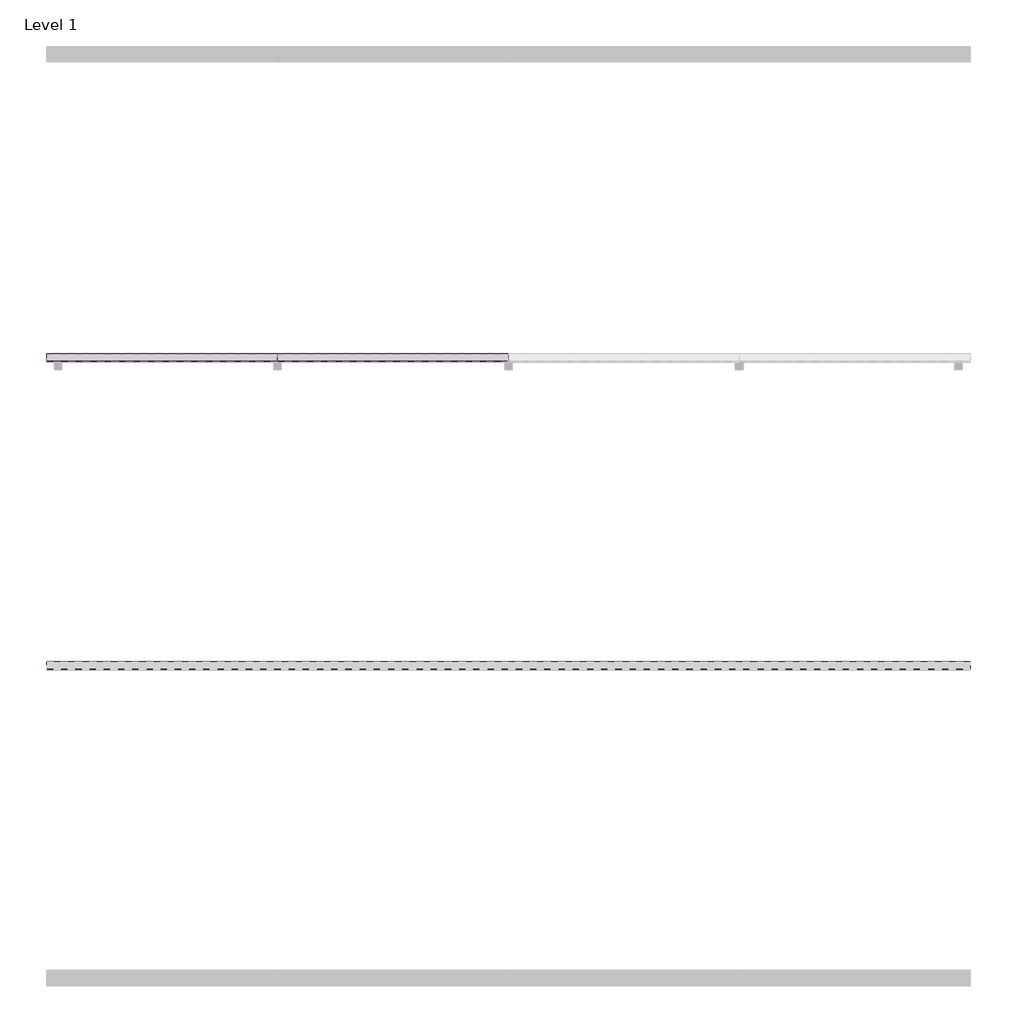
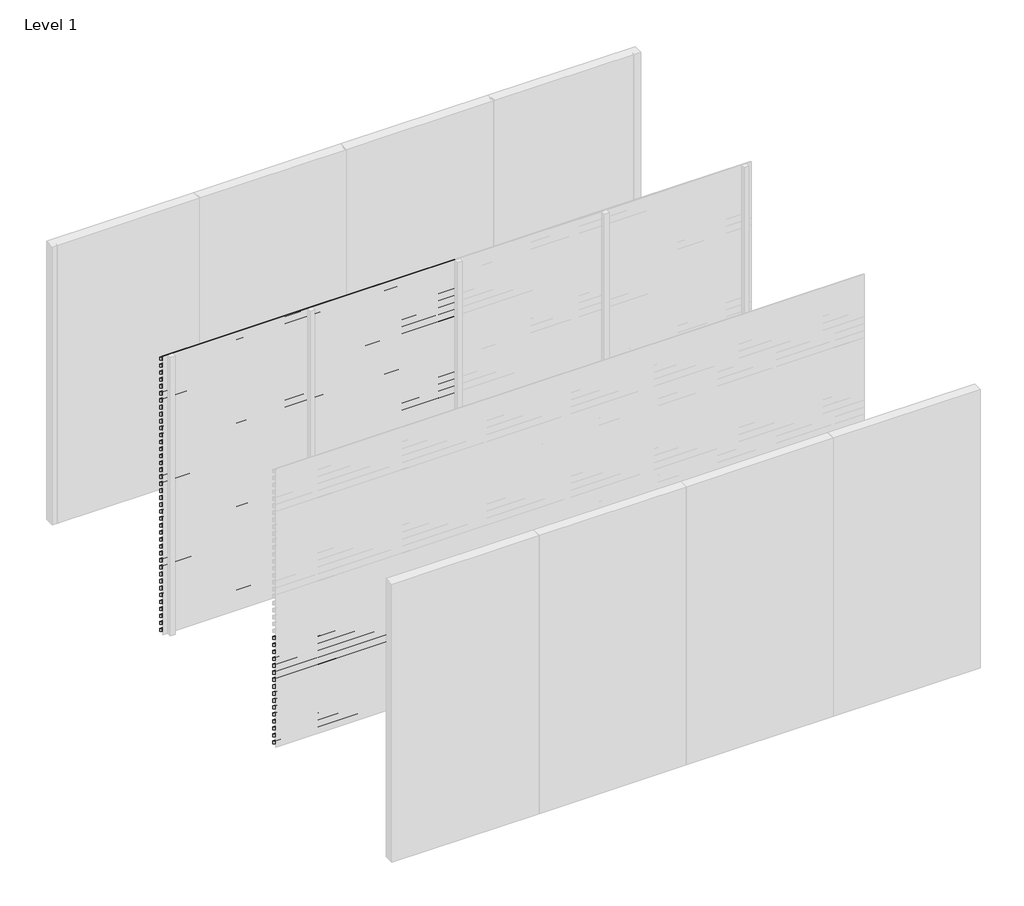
# One storey, part 4 of 9: 95 proxies.
"""IFC4 building model written with IfcOpenShell, lengths in millimetres."""

import ifcopenshell
import ifcopenshell.guid

model = None  # the IFC model being written
_history = None  # IfcOwnerHistory: only IFC2X3 demands one
_inside = {}  # id of a spatial element -> (the spatial element, [elements in it])
_under = {}  # id of a project, library or spatial element -> (it, [spatial elements below it])
_declared = {}  # id of a project -> (the project, [libraries it declares])
_typed = {}  # id of a type object -> (the type object, [elements of that type])
_made_of = {}  # id of a material, layer set ... -> (it, [elements and type objects made of it])


def new_model(schema):
    """Start an empty IFC model of exactly this schema.

    Asked for "IFC4X3", IfcOpenShell would pick the latest addendum, in which some entities
    have other attributes; the version numbers below select the first issue.
    IFC2X3 requires an IfcOwnerHistory on every rooted entity: one is made here for all.
    """
    global model, _history
    if schema == "IFC4X3":
        model = ifcopenshell.file(schema_version=(4, 3, 0, 0))
    else:
        model = ifcopenshell.file(schema=schema)
    _inside.clear()
    _under.clear()
    _declared.clear()
    _typed.clear()
    _made_of.clear()
    _history = None
    if model.schema == "IFC2X3":
        org = make("IfcOrganization", Name="unknown")
        user = make(
            "IfcPersonAndOrganization",
            ThePerson=make("IfcPerson", FamilyName="unknown"),
            TheOrganization=org,
        )
        app = make(
            "IfcApplication",
            ApplicationDeveloper=org,
            Version="unknown",
            ApplicationFullName="unknown",
            ApplicationIdentifier="unknown",
        )
        _history = make(
            "IfcOwnerHistory",
            OwningUser=user,
            OwningApplication=app,
            ChangeAction="ADDED",
            CreationDate=0,
        )
    return model


def make(cls, **values):
    """One entity of the class cls with the attributes given. An attribute that is None is left unset."""
    return model.create_entity(
        cls, **{name: value for name, value in values.items() if value is not None}
    )


def rooted(cls, **values):
    """An entity with a GlobalId (a new one), such as an element, a storey or a relation."""
    return make(cls, GlobalId=ifcopenshell.guid.new(), OwnerHistory=_history, **values)


def si_unit(unit_type, name, prefix=None):
    """IfcSIUnit, for example si_unit("LENGTHUNIT", "METRE", prefix="MILLI")."""
    return make("IfcSIUnit", UnitType=unit_type, Prefix=prefix, Name=name)


def assignment(units):
    """IfcUnitAssignment: the units of a project."""
    return None if units is None else make("IfcUnitAssignment", Units=units)


def point(xyz):
    """IfcCartesianPoint."""
    return None if xyz is None else make("IfcCartesianPoint", Coordinates=xyz)


def direction(xyz):
    """IfcDirection."""
    return None if xyz is None else make("IfcDirection", DirectionRatios=xyz)


def frame(location, z_axis=None, x_axis=None):
    """IfcAxis2Placement3D, a coordinate frame: its origin and axes. An axis left out is left unset."""
    return make(
        "IfcAxis2Placement3D",
        Location=point(location),
        Axis=direction(z_axis),
        RefDirection=direction(x_axis),
    )


def origin():
    """The frame at (0, 0, 0) with its axes left unset."""
    return frame((0.0, 0.0, 0.0))


def place(relative_to, where):
    """IfcLocalPlacement: puts the frame where relative to a parent placement (None: the world)."""
    return make(
        "IfcLocalPlacement", PlacementRelTo=relative_to, RelativePlacement=where
    )


def context(
    kind, dimensions, precision=None, world=None, true_north=None, identifier=None
):
    """IfcGeometricRepresentationContext, for example the 3D "Model" context."""
    return make(
        "IfcGeometricRepresentationContext",
        ContextIdentifier=identifier,
        ContextType=kind,
        CoordinateSpaceDimension=dimensions,
        Precision=precision,
        WorldCoordinateSystem=world,
        TrueNorth=true_north,
    )


def project(units=None, contexts=None):
    """IfcProject with its units and contexts."""
    return rooted(
        "IfcProject",
        Name="project",
        RepresentationContexts=contexts,
        UnitsInContext=assignment(units),
    )


def spatial(cls, under=None, at=None, **own):
    """A site, building, storey or space (cls), placed at a placement, below another one or the project."""
    s = rooted(cls, ObjectPlacement=at, **own)
    if under is not None:
        _under.setdefault(under.id(), (under, []))[1].append(s)
    return s


def polyline(points):
    """IfcPolyline through the points."""
    return make("IfcPolyline", Points=[point(p) for p in points])


def outline(outer, holes=None, kind="AREA"):
    """IfcArbitraryClosedProfileDef: a profile drawn as a closed curve; with holes, ...WithVoids."""
    if holes is None:
        return make("IfcArbitraryClosedProfileDef", ProfileType=kind, OuterCurve=outer)
    return make(
        "IfcArbitraryProfileDefWithVoids",
        ProfileType=kind,
        OuterCurve=outer,
        InnerCurves=holes,
    )


def extrude(swept, where, along, depth):
    """IfcExtrudedAreaSolid: the profile swept, set in the frame where, extruded along a direction by depth."""
    return make(
        "IfcExtrudedAreaSolid",
        SweptArea=swept,
        Position=where,
        ExtrudedDirection=direction(along),
        Depth=depth,
    )


def shape(context_of_items, identifier, shape_type, items):
    """IfcShapeRepresentation: the items that make up one representation, for example the "Body"."""
    return make(
        "IfcShapeRepresentation",
        ContextOfItems=context_of_items,
        RepresentationIdentifier=identifier,
        RepresentationType=shape_type,
        Items=items,
    )


def made_of(thing, what):
    """Note that an element or type object is made of a material, layer set ...; save() writes the relation."""
    if what is not None:
        _made_of.setdefault(what.id(), (what, []))[1].append(thing)
    return thing


def element(
    cls,
    number,
    at=None,
    inside=None,
    cuts=None,
    type_object=None,
    material=None,
    context=None,
    identifier="Body",
    shape_type=None,
    held_by="IfcProductDefinitionShape",
    body=None,
    shapes=None,
    **own,
):
    """One element of the class cls, such as IfcWall. Its Tag is "e" and its number.

    at: its placement. inside: the storey or other place that contains it. cuts: it is an
    opening in that element (IfcRelVoidsElement). A single representation is given by context,
    identifier, shape_type and body (its items); several are given by shapes. held_by: the class
    of the entity that holds the representations. save() writes the other relations.
    """
    e = rooted(cls, Tag="e%d" % number, ObjectPlacement=at, **own)
    if body is not None:
        shapes = [shape(context, identifier, shape_type, body)]
    if shapes is not None:
        e.Representation = make(held_by, Representations=shapes)
    if inside is not None:
        _inside.setdefault(inside.id(), (inside, []))[1].append(e)
    if cuts is not None:
        rooted(
            "IfcRelVoidsElement", RelatingBuildingElement=cuts, RelatedOpeningElement=e
        )
    if type_object is not None:
        _typed.setdefault(type_object.id(), (type_object, []))[1].append(e)
    return made_of(e, material)


def aggregate(whole, parts):
    """IfcRelAggregates: a whole, such as a stair, and the parts it consists of."""
    return rooted("IfcRelAggregates", RelatingObject=whole, RelatedObjects=parts)


def save(model, path):
    """Write the relations noted so far, then the file.

    IfcRelAggregates (storeys below a building ...), IfcRelContainedInSpatialStructure (elements
    in a storey), IfcRelDefinesByType, IfcRelAssociatesMaterial and IfcRelDeclares: one each for
    every whole, place, type object, material and project.
    """
    for whole, parts in _under.values():
        aggregate(whole, parts)
    for where, things in _inside.values():
        rooted(
            "IfcRelContainedInSpatialStructure",
            RelatedElements=things,
            RelatingStructure=where,
        )
    for kind, things in _typed.values():
        rooted("IfcRelDefinesByType", RelatedObjects=things, RelatingType=kind)
    for what, things in _made_of.values():
        rooted("IfcRelAssociatesMaterial", RelatedObjects=things, RelatingMaterial=what)
    for by, libraries in _declared.values():
        rooted("IfcRelDeclares", RelatingContext=by, RelatedDefinitions=libraries)
    model.write(path)


model = new_model("IFC4")

# Units and contexts
model_context = context("Model", 3, world=origin())
ifc_project = project(units=[si_unit("LENGTHUNIT", "METRE", prefix="MILLI")], contexts=[model_context])

# Site, building, storey
site = spatial("IfcSite", under=ifc_project)
building = spatial("IfcBuilding", under=site)
storey = spatial("IfcBuildingStorey", under=building, Name="Level 1", Elevation=0.0)

# Proxies
placement = place(None, origin())
element("IfcBuildingElementProxy", 1, Name="Wall Sweeps", at=placement, inside=storey, context=model_context, shape_type="SweptSolid", body=[
    extrude(outline(polyline([(-11995.0, 3000.0), (-11995.0, 2991.2901632), (-11946.0, 2963.0), (-11946.0, 2928.0), (-11997.0, 2957.4448637), (-11997.0, 3000.0), (-11995.0, 3000.0)])), frame((0.0, 0.0, 0.0), z_axis=(1.0, 0.0, 0.0), x_axis=(0.0, 1.0, 0.0)), (0.0, 0.0, 1.0), 1500.0),
])
element("IfcBuildingElementProxy", 2, Name="Wall Sweeps", at=placement, inside=storey, context=model_context, shape_type="SweptSolid", body=[
    extrude(outline(polyline([(-11995.0, 2925.0), (-11995.0, 2916.2901632), (-11946.0, 2888.0), (-11946.0, 2853.0), (-11997.0, 2882.4448637), (-11997.0, 2925.0), (-11995.0, 2925.0)])), frame((0.0, 0.0, 0.0), z_axis=(1.0, 0.0, 0.0), x_axis=(0.0, 1.0, 0.0)), (0.0, 0.0, 1.0), 1500.0),
])
element("IfcBuildingElementProxy", 3, Name="Wall Sweeps", at=placement, inside=storey, context=model_context, shape_type="SweptSolid", body=[
    extrude(outline(polyline([(-11995.0, 2850.0), (-11995.0, 2841.2901632), (-11946.0, 2813.0), (-11946.0, 2778.0), (-11997.0, 2807.4448637), (-11997.0, 2850.0), (-11995.0, 2850.0)])), frame((0.0, 0.0, 0.0), z_axis=(1.0, 0.0, 0.0), x_axis=(0.0, 1.0, 0.0)), (0.0, 0.0, 1.0), 1500.0),
])
element("IfcBuildingElementProxy", 4, Name="Wall Sweeps", at=placement, inside=storey, context=model_context, shape_type="SweptSolid", body=[
    extrude(outline(polyline([(-11995.0, 2775.0), (-11995.0, 2766.2901632), (-11946.0, 2738.0), (-11946.0, 2703.0), (-11997.0, 2732.4448637), (-11997.0, 2775.0), (-11995.0, 2775.0)])), frame((0.0, 0.0, 0.0), z_axis=(1.0, 0.0, 0.0), x_axis=(0.0, 1.0, 0.0)), (0.0, 0.0, 1.0), 1500.0),
])
element("IfcBuildingElementProxy", 5, Name="Wall Sweeps", at=placement, inside=storey, context=model_context, shape_type="SweptSolid", body=[
    extrude(outline(polyline([(-11995.0, 2700.0), (-11995.0, 2691.2901632), (-11946.0, 2663.0), (-11946.0, 2628.0), (-11997.0, 2657.4448637), (-11997.0, 2700.0), (-11995.0, 2700.0)])), frame((0.0, 0.0, 0.0), z_axis=(1.0, 0.0, 0.0), x_axis=(0.0, 1.0, 0.0)), (0.0, 0.0, 1.0), 1500.0),
])
element("IfcBuildingElementProxy", 6, Name="Wall Sweeps", at=placement, inside=storey, context=model_context, shape_type="SweptSolid", body=[
    extrude(outline(polyline([(-11995.0, 2625.0), (-11995.0, 2616.2901632), (-11946.0, 2588.0), (-11946.0, 2553.0), (-11997.0, 2582.4448637), (-11997.0, 2625.0), (-11995.0, 2625.0)])), frame((0.0, 0.0, 0.0), z_axis=(1.0, 0.0, 0.0), x_axis=(0.0, 1.0, 0.0)), (0.0, 0.0, 1.0), 1500.0),
])
element("IfcBuildingElementProxy", 7, Name="Wall Sweeps", at=placement, inside=storey, context=model_context, shape_type="SweptSolid", body=[
    extrude(outline(polyline([(-11995.0, 2550.0), (-11995.0, 2541.2901632), (-11946.0, 2513.0), (-11946.0, 2478.0), (-11997.0, 2507.4448637), (-11997.0, 2550.0), (-11995.0, 2550.0)])), frame((0.0, 0.0, 0.0), z_axis=(1.0, 0.0, 0.0), x_axis=(0.0, 1.0, 0.0)), (0.0, 0.0, 1.0), 1500.0),
])
element("IfcBuildingElementProxy", 8, Name="Wall Sweeps", at=placement, inside=storey, context=model_context, shape_type="SweptSolid", body=[
    extrude(outline(polyline([(-11995.0, 2475.0), (-11995.0, 2466.2901632), (-11946.0, 2438.0), (-11946.0, 2403.0), (-11997.0, 2432.4448637), (-11997.0, 2475.0), (-11995.0, 2475.0)])), frame((0.0, 0.0, 0.0), z_axis=(1.0, 0.0, 0.0), x_axis=(0.0, 1.0, 0.0)), (0.0, 0.0, 1.0), 1500.0),
])
element("IfcBuildingElementProxy", 9, Name="Wall Sweeps", at=placement, inside=storey, context=model_context, shape_type="SweptSolid", body=[
    extrude(outline(polyline([(-11995.0, 2400.0), (-11995.0, 2391.2901632), (-11946.0, 2363.0), (-11946.0, 2328.0), (-11997.0, 2357.4448637), (-11997.0, 2400.0), (-11995.0, 2400.0)])), frame((0.0, 0.0, 0.0), z_axis=(1.0, 0.0, 0.0), x_axis=(0.0, 1.0, 0.0)), (0.0, 0.0, 1.0), 1500.0),
])
element("IfcBuildingElementProxy", 10, Name="Wall Sweeps", at=placement, inside=storey, context=model_context, shape_type="SweptSolid", body=[
    extrude(outline(polyline([(-11995.0, 2325.0), (-11995.0, 2316.2901632), (-11946.0, 2288.0), (-11946.0, 2253.0), (-11997.0, 2282.4448637), (-11997.0, 2325.0), (-11995.0, 2325.0)])), frame((0.0, 0.0, 0.0), z_axis=(1.0, 0.0, 0.0), x_axis=(0.0, 1.0, 0.0)), (0.0, 0.0, 1.0), 1500.0),
])
element("IfcBuildingElementProxy", 11, Name="Wall Sweeps", at=placement, inside=storey, context=model_context, shape_type="SweptSolid", body=[
    extrude(outline(polyline([(-11995.0, 2250.0), (-11995.0, 2241.2901632), (-11946.0, 2213.0), (-11946.0, 2178.0), (-11997.0, 2207.4448637), (-11997.0, 2250.0), (-11995.0, 2250.0)])), frame((0.0, 0.0, 0.0), z_axis=(1.0, 0.0, 0.0), x_axis=(0.0, 1.0, 0.0)), (0.0, 0.0, 1.0), 1500.0),
])
element("IfcBuildingElementProxy", 12, Name="Wall Sweeps", at=placement, inside=storey, context=model_context, shape_type="SweptSolid", body=[
    extrude(outline(polyline([(-11995.0, 2175.0), (-11995.0, 2166.2901632), (-11946.0, 2138.0), (-11946.0, 2103.0), (-11997.0, 2132.4448637), (-11997.0, 2175.0), (-11995.0, 2175.0)])), frame((0.0, 0.0, 0.0), z_axis=(1.0, 0.0, 0.0), x_axis=(0.0, 1.0, 0.0)), (0.0, 0.0, 1.0), 1500.0),
])
element("IfcBuildingElementProxy", 13, Name="Wall Sweeps", at=placement, inside=storey, context=model_context, shape_type="SweptSolid", body=[
    extrude(outline(polyline([(-11995.0, 2100.0), (-11995.0, 2091.2901632), (-11946.0, 2063.0), (-11946.0, 2028.0), (-11997.0, 2057.4448637), (-11997.0, 2100.0), (-11995.0, 2100.0)])), frame((0.0, 0.0, 0.0), z_axis=(1.0, 0.0, 0.0), x_axis=(0.0, 1.0, 0.0)), (0.0, 0.0, 1.0), 1500.0),
])
element("IfcBuildingElementProxy", 14, Name="Wall Sweeps", at=placement, inside=storey, context=model_context, shape_type="SweptSolid", body=[
    extrude(outline(polyline([(-11995.0, 2025.0), (-11995.0, 2016.2901632), (-11946.0, 1988.0), (-11946.0, 1953.0), (-11997.0, 1982.4448637), (-11997.0, 2025.0), (-11995.0, 2025.0)])), frame((0.0, 0.0, 0.0), z_axis=(1.0, 0.0, 0.0), x_axis=(0.0, 1.0, 0.0)), (0.0, 0.0, 1.0), 1500.0),
])
element("IfcBuildingElementProxy", 15, Name="Wall Sweeps", at=placement, inside=storey, context=model_context, shape_type="SweptSolid", body=[
    extrude(outline(polyline([(-11995.0, 1950.0), (-11995.0, 1941.2901632), (-11946.0, 1913.0), (-11946.0, 1878.0), (-11997.0, 1907.4448637), (-11997.0, 1950.0), (-11995.0, 1950.0)])), frame((0.0, 0.0, 0.0), z_axis=(1.0, 0.0, 0.0), x_axis=(0.0, 1.0, 0.0)), (0.0, 0.0, 1.0), 1500.0),
])
element("IfcBuildingElementProxy", 16, Name="Wall Sweeps", at=placement, inside=storey, context=model_context, shape_type="SweptSolid", body=[
    extrude(outline(polyline([(-11995.0, 1875.0), (-11995.0, 1866.2901632), (-11946.0, 1838.0), (-11946.0, 1803.0), (-11997.0, 1832.4448637), (-11997.0, 1875.0), (-11995.0, 1875.0)])), frame((0.0, 0.0, 0.0), z_axis=(1.0, 0.0, 0.0), x_axis=(0.0, 1.0, 0.0)), (0.0, 0.0, 1.0), 1500.0),
])
element("IfcBuildingElementProxy", 17, Name="Wall Sweeps", at=placement, inside=storey, context=model_context, shape_type="SweptSolid", body=[
    extrude(outline(polyline([(-11995.0, 1800.0), (-11995.0, 1791.2901632), (-11946.0, 1763.0), (-11946.0, 1728.0), (-11997.0, 1757.4448637), (-11997.0, 1800.0), (-11995.0, 1800.0)])), frame((0.0, 0.0, 0.0), z_axis=(1.0, 0.0, 0.0), x_axis=(0.0, 1.0, 0.0)), (0.0, 0.0, 1.0), 1500.0),
])
element("IfcBuildingElementProxy", 18, Name="Wall Sweeps", at=placement, inside=storey, context=model_context, shape_type="SweptSolid", body=[
    extrude(outline(polyline([(-11995.0, 1725.0), (-11995.0, 1716.2901632), (-11946.0, 1688.0), (-11946.0, 1653.0), (-11997.0, 1682.4448637), (-11997.0, 1725.0), (-11995.0, 1725.0)])), frame((0.0, 0.0, 0.0), z_axis=(1.0, 0.0, 0.0), x_axis=(0.0, 1.0, 0.0)), (0.0, 0.0, 1.0), 1500.0),
])
element("IfcBuildingElementProxy", 19, Name="Wall Sweeps", at=placement, inside=storey, context=model_context, shape_type="SweptSolid", body=[
    extrude(outline(polyline([(-11995.0, 1650.0), (-11995.0, 1641.2901632), (-11946.0, 1613.0), (-11946.0, 1578.0), (-11997.0, 1607.4448637), (-11997.0, 1650.0), (-11995.0, 1650.0)])), frame((0.0, 0.0, 0.0), z_axis=(1.0, 0.0, 0.0), x_axis=(0.0, 1.0, 0.0)), (0.0, 0.0, 1.0), 1500.0),
])
element("IfcBuildingElementProxy", 20, Name="Wall Sweeps", at=placement, inside=storey, context=model_context, shape_type="SweptSolid", body=[
    extrude(outline(polyline([(-11995.0, 1575.0), (-11995.0, 1566.2901632), (-11946.0, 1538.0), (-11946.0, 1503.0), (-11997.0, 1532.4448637), (-11997.0, 1575.0), (-11995.0, 1575.0)])), frame((0.0, 0.0, 0.0), z_axis=(1.0, 0.0, 0.0), x_axis=(0.0, 1.0, 0.0)), (0.0, 0.0, 1.0), 1500.0),
])
element("IfcBuildingElementProxy", 21, Name="Wall Sweeps", at=placement, inside=storey, context=model_context, shape_type="SweptSolid", body=[
    extrude(outline(polyline([(-11995.0, 1500.0), (-11995.0, 1491.2901632), (-11946.0, 1463.0), (-11946.0, 1428.0), (-11997.0, 1457.4448637), (-11997.0, 1500.0), (-11995.0, 1500.0)])), frame((0.0, 0.0, 0.0), z_axis=(1.0, 0.0, 0.0), x_axis=(0.0, 1.0, 0.0)), (0.0, 0.0, 1.0), 1500.0),
])
element("IfcBuildingElementProxy", 22, Name="Wall Sweeps", at=placement, inside=storey, context=model_context, shape_type="SweptSolid", body=[
    extrude(outline(polyline([(-11995.0, 1425.0), (-11995.0, 1416.2901632), (-11946.0, 1388.0), (-11946.0, 1353.0), (-11997.0, 1382.4448637), (-11997.0, 1425.0), (-11995.0, 1425.0)])), frame((0.0, 0.0, 0.0), z_axis=(1.0, 0.0, 0.0), x_axis=(0.0, 1.0, 0.0)), (0.0, 0.0, 1.0), 1500.0),
])
element("IfcBuildingElementProxy", 23, Name="Wall Sweeps", at=placement, inside=storey, context=model_context, shape_type="SweptSolid", body=[
    extrude(outline(polyline([(-11995.0, 1350.0), (-11995.0, 1341.2901632), (-11946.0, 1313.0), (-11946.0, 1278.0), (-11997.0, 1307.4448637), (-11997.0, 1350.0), (-11995.0, 1350.0)])), frame((0.0, 0.0, 0.0), z_axis=(1.0, 0.0, 0.0), x_axis=(0.0, 1.0, 0.0)), (0.0, 0.0, 1.0), 1500.0),
])
element("IfcBuildingElementProxy", 24, Name="Wall Sweeps", at=placement, inside=storey, context=model_context, shape_type="SweptSolid", body=[
    extrude(outline(polyline([(-11995.0, 1275.0), (-11995.0, 1266.2901632), (-11946.0, 1238.0), (-11946.0, 1203.0), (-11997.0, 1232.4448637), (-11997.0, 1275.0), (-11995.0, 1275.0)])), frame((0.0, 0.0, 0.0), z_axis=(1.0, 0.0, 0.0), x_axis=(0.0, 1.0, 0.0)), (0.0, 0.0, 1.0), 1500.0),
])
element("IfcBuildingElementProxy", 25, Name="Wall Sweeps", at=placement, inside=storey, context=model_context, shape_type="SweptSolid", body=[
    extrude(outline(polyline([(-11995.0, 1200.0), (-11995.0, 1191.2901632), (-11946.0, 1163.0), (-11946.0, 1128.0), (-11997.0, 1157.4448637), (-11997.0, 1200.0), (-11995.0, 1200.0)])), frame((0.0, 0.0, 0.0), z_axis=(1.0, 0.0, 0.0), x_axis=(0.0, 1.0, 0.0)), (0.0, 0.0, 1.0), 1500.0),
])
element("IfcBuildingElementProxy", 26, Name="Wall Sweeps", at=placement, inside=storey, context=model_context, shape_type="SweptSolid", body=[
    extrude(outline(polyline([(-11995.0, 1125.0), (-11995.0, 1116.2901632), (-11946.0, 1088.0), (-11946.0, 1053.0), (-11997.0, 1082.4448637), (-11997.0, 1125.0), (-11995.0, 1125.0)])), frame((0.0, 0.0, 0.0), z_axis=(1.0, 0.0, 0.0), x_axis=(0.0, 1.0, 0.0)), (0.0, 0.0, 1.0), 1500.0),
])
element("IfcBuildingElementProxy", 27, Name="Wall Sweeps", at=placement, inside=storey, context=model_context, shape_type="SweptSolid", body=[
    extrude(outline(polyline([(-11995.0, 1050.0), (-11995.0, 1041.2901632), (-11946.0, 1013.0), (-11946.0, 978.0), (-11997.0, 1007.4448637), (-11997.0, 1050.0), (-11995.0, 1050.0)])), frame((0.0, 0.0, 0.0), z_axis=(1.0, 0.0, 0.0), x_axis=(0.0, 1.0, 0.0)), (0.0, 0.0, 1.0), 1500.0),
])
element("IfcBuildingElementProxy", 28, Name="Wall Sweeps", at=placement, inside=storey, context=model_context, shape_type="SweptSolid", body=[
    extrude(outline(polyline([(-11995.0, 975.0), (-11995.0, 966.2901632), (-11946.0, 938.0), (-11946.0, 903.0), (-11997.0, 932.4448637), (-11997.0, 975.0), (-11995.0, 975.0)])), frame((0.0, 0.0, 0.0), z_axis=(1.0, 0.0, 0.0), x_axis=(0.0, 1.0, 0.0)), (0.0, 0.0, 1.0), 1500.0),
])
element("IfcBuildingElementProxy", 29, Name="Wall Sweeps", at=placement, inside=storey, context=model_context, shape_type="SweptSolid", body=[
    extrude(outline(polyline([(-11995.0, 900.0), (-11995.0, 891.2901632), (-11946.0, 863.0), (-11946.0, 828.0), (-11997.0, 857.4448637), (-11997.0, 900.0), (-11995.0, 900.0)])), frame((0.0, 0.0, 0.0), z_axis=(1.0, 0.0, 0.0), x_axis=(0.0, 1.0, 0.0)), (0.0, 0.0, 1.0), 1500.0),
])
element("IfcBuildingElementProxy", 30, Name="Wall Sweeps", at=placement, inside=storey, context=model_context, shape_type="SweptSolid", body=[
    extrude(outline(polyline([(-11995.0, 825.0), (-11995.0, 816.2901632), (-11946.0, 788.0), (-11946.0, 753.0), (-11997.0, 782.4448637), (-11997.0, 825.0), (-11995.0, 825.0)])), frame((0.0, 0.0, 0.0), z_axis=(1.0, 0.0, 0.0), x_axis=(0.0, 1.0, 0.0)), (0.0, 0.0, 1.0), 1500.0),
])
element("IfcBuildingElementProxy", 31, Name="Wall Sweeps", at=placement, inside=storey, context=model_context, shape_type="SweptSolid", body=[
    extrude(outline(polyline([(-11995.0, 750.0), (-11995.0, 741.2901632), (-11946.0, 713.0), (-11946.0, 678.0), (-11997.0, 707.4448637), (-11997.0, 750.0), (-11995.0, 750.0)])), frame((0.0, 0.0, 0.0), z_axis=(1.0, 0.0, 0.0), x_axis=(0.0, 1.0, 0.0)), (0.0, 0.0, 1.0), 1500.0),
])
element("IfcBuildingElementProxy", 32, Name="Wall Sweeps", at=placement, inside=storey, context=model_context, shape_type="SweptSolid", body=[
    extrude(outline(polyline([(-11995.0, 675.0), (-11995.0, 666.2901632), (-11946.0, 638.0), (-11946.0, 603.0), (-11997.0, 632.4448637), (-11997.0, 675.0), (-11995.0, 675.0)])), frame((0.0, 0.0, 0.0), z_axis=(1.0, 0.0, 0.0), x_axis=(0.0, 1.0, 0.0)), (0.0, 0.0, 1.0), 1500.0),
])
element("IfcBuildingElementProxy", 33, Name="Wall Sweeps", at=placement, inside=storey, context=model_context, shape_type="SweptSolid", body=[
    extrude(outline(polyline([(-11995.0, 600.0), (-11995.0, 591.2901632), (-11946.0, 563.0), (-11946.0, 528.0), (-11997.0, 557.4448637), (-11997.0, 600.0), (-11995.0, 600.0)])), frame((0.0, 0.0, 0.0), z_axis=(1.0, 0.0, 0.0), x_axis=(0.0, 1.0, 0.0)), (0.0, 0.0, 1.0), 1500.0),
])
element("IfcBuildingElementProxy", 34, Name="Wall Sweeps", at=placement, inside=storey, context=model_context, shape_type="SweptSolid", body=[
    extrude(outline(polyline([(-11995.0, 525.0), (-11995.0, 516.2901632), (-11946.0, 488.0), (-11946.0, 453.0), (-11997.0, 482.4448637), (-11997.0, 525.0), (-11995.0, 525.0)])), frame((0.0, 0.0, 0.0), z_axis=(1.0, 0.0, 0.0), x_axis=(0.0, 1.0, 0.0)), (0.0, 0.0, 1.0), 1500.0),
])
element("IfcBuildingElementProxy", 35, Name="Wall Sweeps", at=placement, inside=storey, context=model_context, shape_type="SweptSolid", body=[
    extrude(outline(polyline([(-11995.0, 450.0), (-11995.0, 441.2901632), (-11946.0, 413.0), (-11946.0, 378.0), (-11997.0, 407.4448637), (-11997.0, 450.0), (-11995.0, 450.0)])), frame((0.0, 0.0, 0.0), z_axis=(1.0, 0.0, 0.0), x_axis=(0.0, 1.0, 0.0)), (0.0, 0.0, 1.0), 1500.0),
])
element("IfcBuildingElementProxy", 36, Name="Wall Sweeps", at=placement, inside=storey, context=model_context, shape_type="SweptSolid", body=[
    extrude(outline(polyline([(-11995.0, 375.0), (-11995.0, 366.2901632), (-11946.0, 338.0), (-11946.0, 303.0), (-11997.0, 332.4448637), (-11997.0, 375.0), (-11995.0, 375.0)])), frame((0.0, 0.0, 0.0), z_axis=(1.0, 0.0, 0.0), x_axis=(0.0, 1.0, 0.0)), (0.0, 0.0, 1.0), 1500.0),
])
element("IfcBuildingElementProxy", 37, Name="Wall Sweeps", at=placement, inside=storey, context=model_context, shape_type="SweptSolid", body=[
    extrude(outline(polyline([(-11995.0, 300.0), (-11995.0, 291.2901632), (-11946.0, 263.0), (-11946.0, 228.0), (-11997.0, 257.4448637), (-11997.0, 300.0), (-11995.0, 300.0)])), frame((0.0, 0.0, 0.0), z_axis=(1.0, 0.0, 0.0), x_axis=(0.0, 1.0, 0.0)), (0.0, 0.0, 1.0), 1500.0),
])
element("IfcBuildingElementProxy", 38, Name="Wall Sweeps", at=placement, inside=storey, context=model_context, shape_type="SweptSolid", body=[
    extrude(outline(polyline([(-11995.0, 225.0), (-11995.0, 216.2901632), (-11946.0, 188.0), (-11946.0, 153.0), (-11997.0, 182.4448637), (-11997.0, 225.0), (-11995.0, 225.0)])), frame((0.0, 0.0, 0.0), z_axis=(1.0, 0.0, 0.0), x_axis=(0.0, 1.0, 0.0)), (0.0, 0.0, 1.0), 1500.0),
])
element("IfcBuildingElementProxy", 39, Name="Wall Sweeps", at=placement, inside=storey, context=model_context, shape_type="SweptSolid", body=[
    extrude(outline(polyline([(-11995.0, 150.0), (-11995.0, 141.2901632), (-11946.0, 113.0), (-11946.0, 78.0), (-11997.0, 107.4448637), (-11997.0, 150.0), (-11995.0, 150.0)])), frame((0.0, 0.0, 0.0), z_axis=(1.0, 0.0, 0.0), x_axis=(0.0, 1.0, 0.0)), (0.0, 0.0, 1.0), 1500.0),
])
element("IfcBuildingElementProxy", 40, Name="Wall Sweeps", at=placement, inside=storey, context=model_context, shape_type="SweptSolid", body=[
    extrude(outline(polyline([(-11995.0, 75.0), (-11995.0, 66.2901632), (-11946.0, 38.0), (-11946.0, 3.0), (-11997.0, 32.4448637), (-11997.0, 75.0), (-11995.0, 75.0)])), frame((0.0, 0.0, 0.0), z_axis=(1.0, 0.0, 0.0), x_axis=(0.0, 1.0, 0.0)), (0.0, 0.0, 1.0), 1500.0),
])
element("IfcBuildingElementProxy", 41, Name="Wall Sweeps", at=placement, inside=storey, context=model_context, shape_type="SweptSolid", body=[
    extrude(outline(polyline([(-11995.0, 3000.0), (-11995.0, 2991.2901632), (-11946.0, 2963.0), (-11946.0, 2928.0), (-11997.0, 2957.4448637), (-11997.0, 3000.0), (-11995.0, 3000.0)])), frame((1500.0, 0.0, 0.0), z_axis=(1.0, 0.0, 0.0), x_axis=(0.0, 1.0, 0.0)), (0.0, 0.0, 1.0), 1500.0),
])
element("IfcBuildingElementProxy", 42, Name="Wall Sweeps", at=placement, inside=storey, context=model_context, shape_type="SweptSolid", body=[
    extrude(outline(polyline([(-11995.0, 2925.0), (-11995.0, 2916.2901632), (-11946.0, 2888.0), (-11946.0, 2853.0), (-11997.0, 2882.4448637), (-11997.0, 2925.0), (-11995.0, 2925.0)])), frame((1500.0, 0.0, 0.0), z_axis=(1.0, 0.0, 0.0), x_axis=(0.0, 1.0, 0.0)), (0.0, 0.0, 1.0), 1500.0),
])
element("IfcBuildingElementProxy", 43, Name="Wall Sweeps", at=placement, inside=storey, context=model_context, shape_type="SweptSolid", body=[
    extrude(outline(polyline([(-11995.0, 2850.0), (-11995.0, 2841.2901632), (-11946.0, 2813.0), (-11946.0, 2778.0), (-11997.0, 2807.4448637), (-11997.0, 2850.0), (-11995.0, 2850.0)])), frame((1500.0, 0.0, 0.0), z_axis=(1.0, 0.0, 0.0), x_axis=(0.0, 1.0, 0.0)), (0.0, 0.0, 1.0), 1500.0),
])
element("IfcBuildingElementProxy", 44, Name="Wall Sweeps", at=placement, inside=storey, context=model_context, shape_type="SweptSolid", body=[
    extrude(outline(polyline([(-11995.0, 2775.0), (-11995.0, 2766.2901632), (-11946.0, 2738.0), (-11946.0, 2703.0), (-11997.0, 2732.4448637), (-11997.0, 2775.0), (-11995.0, 2775.0)])), frame((1500.0, 0.0, 0.0), z_axis=(1.0, 0.0, 0.0), x_axis=(0.0, 1.0, 0.0)), (0.0, 0.0, 1.0), 1500.0),
])
element("IfcBuildingElementProxy", 45, Name="Wall Sweeps", at=placement, inside=storey, context=model_context, shape_type="SweptSolid", body=[
    extrude(outline(polyline([(-11995.0, 2700.0), (-11995.0, 2691.2901632), (-11946.0, 2663.0), (-11946.0, 2628.0), (-11997.0, 2657.4448637), (-11997.0, 2700.0), (-11995.0, 2700.0)])), frame((1500.0, 0.0, 0.0), z_axis=(1.0, 0.0, 0.0), x_axis=(0.0, 1.0, 0.0)), (0.0, 0.0, 1.0), 1500.0),
])
element("IfcBuildingElementProxy", 46, Name="Wall Sweeps", at=placement, inside=storey, context=model_context, shape_type="SweptSolid", body=[
    extrude(outline(polyline([(-11995.0, 2625.0), (-11995.0, 2616.2901632), (-11946.0, 2588.0), (-11946.0, 2553.0), (-11997.0, 2582.4448637), (-11997.0, 2625.0), (-11995.0, 2625.0)])), frame((1500.0, 0.0, 0.0), z_axis=(1.0, 0.0, 0.0), x_axis=(0.0, 1.0, 0.0)), (0.0, 0.0, 1.0), 1500.0),
])
element("IfcBuildingElementProxy", 47, Name="Wall Sweeps", at=placement, inside=storey, context=model_context, shape_type="SweptSolid", body=[
    extrude(outline(polyline([(-11995.0, 2550.0), (-11995.0, 2541.2901632), (-11946.0, 2513.0), (-11946.0, 2478.0), (-11997.0, 2507.4448637), (-11997.0, 2550.0), (-11995.0, 2550.0)])), frame((1500.0, 0.0, 0.0), z_axis=(1.0, 0.0, 0.0), x_axis=(0.0, 1.0, 0.0)), (0.0, 0.0, 1.0), 1500.0),
])
element("IfcBuildingElementProxy", 48, Name="Wall Sweeps", at=placement, inside=storey, context=model_context, shape_type="SweptSolid", body=[
    extrude(outline(polyline([(-11995.0, 2475.0), (-11995.0, 2466.2901632), (-11946.0, 2438.0), (-11946.0, 2403.0), (-11997.0, 2432.4448637), (-11997.0, 2475.0), (-11995.0, 2475.0)])), frame((1500.0, 0.0, 0.0), z_axis=(1.0, 0.0, 0.0), x_axis=(0.0, 1.0, 0.0)), (0.0, 0.0, 1.0), 1500.0),
])
element("IfcBuildingElementProxy", 49, Name="Wall Sweeps", at=placement, inside=storey, context=model_context, shape_type="SweptSolid", body=[
    extrude(outline(polyline([(-11995.0, 2400.0), (-11995.0, 2391.2901632), (-11946.0, 2363.0), (-11946.0, 2328.0), (-11997.0, 2357.4448637), (-11997.0, 2400.0), (-11995.0, 2400.0)])), frame((1500.0, 0.0, 0.0), z_axis=(1.0, 0.0, 0.0), x_axis=(0.0, 1.0, 0.0)), (0.0, 0.0, 1.0), 1500.0),
])
element("IfcBuildingElementProxy", 50, Name="Wall Sweeps", at=placement, inside=storey, context=model_context, shape_type="SweptSolid", body=[
    extrude(outline(polyline([(-11995.0, 2325.0), (-11995.0, 2316.2901632), (-11946.0, 2288.0), (-11946.0, 2253.0), (-11997.0, 2282.4448637), (-11997.0, 2325.0), (-11995.0, 2325.0)])), frame((1500.0, 0.0, 0.0), z_axis=(1.0, 0.0, 0.0), x_axis=(0.0, 1.0, 0.0)), (0.0, 0.0, 1.0), 1500.0),
])
element("IfcBuildingElementProxy", 51, Name="Wall Sweeps", at=placement, inside=storey, context=model_context, shape_type="SweptSolid", body=[
    extrude(outline(polyline([(-11995.0, 2250.0), (-11995.0, 2241.2901632), (-11946.0, 2213.0), (-11946.0, 2178.0), (-11997.0, 2207.4448637), (-11997.0, 2250.0), (-11995.0, 2250.0)])), frame((1500.0, 0.0, 0.0), z_axis=(1.0, 0.0, 0.0), x_axis=(0.0, 1.0, 0.0)), (0.0, 0.0, 1.0), 1500.0),
])
element("IfcBuildingElementProxy", 52, Name="Wall Sweeps", at=placement, inside=storey, context=model_context, shape_type="SweptSolid", body=[
    extrude(outline(polyline([(-11995.0, 2175.0), (-11995.0, 2166.2901632), (-11946.0, 2138.0), (-11946.0, 2103.0), (-11997.0, 2132.4448637), (-11997.0, 2175.0), (-11995.0, 2175.0)])), frame((1500.0, 0.0, 0.0), z_axis=(1.0, 0.0, 0.0), x_axis=(0.0, 1.0, 0.0)), (0.0, 0.0, 1.0), 1500.0),
])
element("IfcBuildingElementProxy", 53, Name="Wall Sweeps", at=placement, inside=storey, context=model_context, shape_type="SweptSolid", body=[
    extrude(outline(polyline([(-11995.0, 2100.0), (-11995.0, 2091.2901632), (-11946.0, 2063.0), (-11946.0, 2028.0), (-11997.0, 2057.4448637), (-11997.0, 2100.0), (-11995.0, 2100.0)])), frame((1500.0, 0.0, 0.0), z_axis=(1.0, 0.0, 0.0), x_axis=(0.0, 1.0, 0.0)), (0.0, 0.0, 1.0), 1500.0),
])
element("IfcBuildingElementProxy", 54, Name="Wall Sweeps", at=placement, inside=storey, context=model_context, shape_type="SweptSolid", body=[
    extrude(outline(polyline([(-11995.0, 2025.0), (-11995.0, 2016.2901632), (-11946.0, 1988.0), (-11946.0, 1953.0), (-11997.0, 1982.4448637), (-11997.0, 2025.0), (-11995.0, 2025.0)])), frame((1500.0, 0.0, 0.0), z_axis=(1.0, 0.0, 0.0), x_axis=(0.0, 1.0, 0.0)), (0.0, 0.0, 1.0), 1500.0),
])
element("IfcBuildingElementProxy", 55, Name="Wall Sweeps", at=placement, inside=storey, context=model_context, shape_type="SweptSolid", body=[
    extrude(outline(polyline([(-11995.0, 1950.0), (-11995.0, 1941.2901632), (-11946.0, 1913.0), (-11946.0, 1878.0), (-11997.0, 1907.4448637), (-11997.0, 1950.0), (-11995.0, 1950.0)])), frame((1500.0, 0.0, 0.0), z_axis=(1.0, 0.0, 0.0), x_axis=(0.0, 1.0, 0.0)), (0.0, 0.0, 1.0), 1500.0),
])
element("IfcBuildingElementProxy", 56, Name="Wall Sweeps", at=placement, inside=storey, context=model_context, shape_type="SweptSolid", body=[
    extrude(outline(polyline([(-11995.0, 1875.0), (-11995.0, 1866.2901632), (-11946.0, 1838.0), (-11946.0, 1803.0), (-11997.0, 1832.4448637), (-11997.0, 1875.0), (-11995.0, 1875.0)])), frame((1500.0, 0.0, 0.0), z_axis=(1.0, 0.0, 0.0), x_axis=(0.0, 1.0, 0.0)), (0.0, 0.0, 1.0), 1500.0),
])
element("IfcBuildingElementProxy", 57, Name="Wall Sweeps", at=placement, inside=storey, context=model_context, shape_type="SweptSolid", body=[
    extrude(outline(polyline([(-11995.0, 1800.0), (-11995.0, 1791.2901632), (-11946.0, 1763.0), (-11946.0, 1728.0), (-11997.0, 1757.4448637), (-11997.0, 1800.0), (-11995.0, 1800.0)])), frame((1500.0, 0.0, 0.0), z_axis=(1.0, 0.0, 0.0), x_axis=(0.0, 1.0, 0.0)), (0.0, 0.0, 1.0), 1500.0),
])
element("IfcBuildingElementProxy", 58, Name="Wall Sweeps", at=placement, inside=storey, context=model_context, shape_type="SweptSolid", body=[
    extrude(outline(polyline([(-11995.0, 1725.0), (-11995.0, 1716.2901632), (-11946.0, 1688.0), (-11946.0, 1653.0), (-11997.0, 1682.4448637), (-11997.0, 1725.0), (-11995.0, 1725.0)])), frame((1500.0, 0.0, 0.0), z_axis=(1.0, 0.0, 0.0), x_axis=(0.0, 1.0, 0.0)), (0.0, 0.0, 1.0), 1500.0),
])
element("IfcBuildingElementProxy", 59, Name="Wall Sweeps", at=placement, inside=storey, context=model_context, shape_type="SweptSolid", body=[
    extrude(outline(polyline([(-11995.0, 1650.0), (-11995.0, 1641.2901632), (-11946.0, 1613.0), (-11946.0, 1578.0), (-11997.0, 1607.4448637), (-11997.0, 1650.0), (-11995.0, 1650.0)])), frame((1500.0, 0.0, 0.0), z_axis=(1.0, 0.0, 0.0), x_axis=(0.0, 1.0, 0.0)), (0.0, 0.0, 1.0), 1500.0),
])
element("IfcBuildingElementProxy", 60, Name="Wall Sweeps", at=placement, inside=storey, context=model_context, shape_type="SweptSolid", body=[
    extrude(outline(polyline([(-11995.0, 1575.0), (-11995.0, 1566.2901632), (-11946.0, 1538.0), (-11946.0, 1503.0), (-11997.0, 1532.4448637), (-11997.0, 1575.0), (-11995.0, 1575.0)])), frame((1500.0, 0.0, 0.0), z_axis=(1.0, 0.0, 0.0), x_axis=(0.0, 1.0, 0.0)), (0.0, 0.0, 1.0), 1500.0),
])
element("IfcBuildingElementProxy", 61, Name="Wall Sweeps", at=placement, inside=storey, context=model_context, shape_type="SweptSolid", body=[
    extrude(outline(polyline([(-11995.0, 1500.0), (-11995.0, 1491.2901632), (-11946.0, 1463.0), (-11946.0, 1428.0), (-11997.0, 1457.4448637), (-11997.0, 1500.0), (-11995.0, 1500.0)])), frame((1500.0, 0.0, 0.0), z_axis=(1.0, 0.0, 0.0), x_axis=(0.0, 1.0, 0.0)), (0.0, 0.0, 1.0), 1500.0),
])
element("IfcBuildingElementProxy", 62, Name="Wall Sweeps", at=placement, inside=storey, context=model_context, shape_type="SweptSolid", body=[
    extrude(outline(polyline([(-11995.0, 1425.0), (-11995.0, 1416.2901632), (-11946.0, 1388.0), (-11946.0, 1353.0), (-11997.0, 1382.4448637), (-11997.0, 1425.0), (-11995.0, 1425.0)])), frame((1500.0, 0.0, 0.0), z_axis=(1.0, 0.0, 0.0), x_axis=(0.0, 1.0, 0.0)), (0.0, 0.0, 1.0), 1500.0),
])
element("IfcBuildingElementProxy", 63, Name="Wall Sweeps", at=placement, inside=storey, context=model_context, shape_type="SweptSolid", body=[
    extrude(outline(polyline([(-11995.0, 1350.0), (-11995.0, 1341.2901632), (-11946.0, 1313.0), (-11946.0, 1278.0), (-11997.0, 1307.4448637), (-11997.0, 1350.0), (-11995.0, 1350.0)])), frame((1500.0, 0.0, 0.0), z_axis=(1.0, 0.0, 0.0), x_axis=(0.0, 1.0, 0.0)), (0.0, 0.0, 1.0), 1500.0),
])
element("IfcBuildingElementProxy", 64, Name="Wall Sweeps", at=placement, inside=storey, context=model_context, shape_type="SweptSolid", body=[
    extrude(outline(polyline([(-11995.0, 1275.0), (-11995.0, 1266.2901632), (-11946.0, 1238.0), (-11946.0, 1203.0), (-11997.0, 1232.4448637), (-11997.0, 1275.0), (-11995.0, 1275.0)])), frame((1500.0, 0.0, 0.0), z_axis=(1.0, 0.0, 0.0), x_axis=(0.0, 1.0, 0.0)), (0.0, 0.0, 1.0), 1500.0),
])
element("IfcBuildingElementProxy", 65, Name="Wall Sweeps", at=placement, inside=storey, context=model_context, shape_type="SweptSolid", body=[
    extrude(outline(polyline([(-11995.0, 1200.0), (-11995.0, 1191.2901632), (-11946.0, 1163.0), (-11946.0, 1128.0), (-11997.0, 1157.4448637), (-11997.0, 1200.0), (-11995.0, 1200.0)])), frame((1500.0, 0.0, 0.0), z_axis=(1.0, 0.0, 0.0), x_axis=(0.0, 1.0, 0.0)), (0.0, 0.0, 1.0), 1500.0),
])
element("IfcBuildingElementProxy", 66, Name="Wall Sweeps", at=placement, inside=storey, context=model_context, shape_type="SweptSolid", body=[
    extrude(outline(polyline([(-11995.0, 1125.0), (-11995.0, 1116.2901632), (-11946.0, 1088.0), (-11946.0, 1053.0), (-11997.0, 1082.4448637), (-11997.0, 1125.0), (-11995.0, 1125.0)])), frame((1500.0, 0.0, 0.0), z_axis=(1.0, 0.0, 0.0), x_axis=(0.0, 1.0, 0.0)), (0.0, 0.0, 1.0), 1500.0),
])
element("IfcBuildingElementProxy", 67, Name="Wall Sweeps", at=placement, inside=storey, context=model_context, shape_type="SweptSolid", body=[
    extrude(outline(polyline([(-11995.0, 1050.0), (-11995.0, 1041.2901632), (-11946.0, 1013.0), (-11946.0, 978.0), (-11997.0, 1007.4448637), (-11997.0, 1050.0), (-11995.0, 1050.0)])), frame((1500.0, 0.0, 0.0), z_axis=(1.0, 0.0, 0.0), x_axis=(0.0, 1.0, 0.0)), (0.0, 0.0, 1.0), 1500.0),
])
element("IfcBuildingElementProxy", 68, Name="Wall Sweeps", at=placement, inside=storey, context=model_context, shape_type="SweptSolid", body=[
    extrude(outline(polyline([(-11995.0, 975.0), (-11995.0, 966.2901632), (-11946.0, 938.0), (-11946.0, 903.0), (-11997.0, 932.4448637), (-11997.0, 975.0), (-11995.0, 975.0)])), frame((1500.0, 0.0, 0.0), z_axis=(1.0, 0.0, 0.0), x_axis=(0.0, 1.0, 0.0)), (0.0, 0.0, 1.0), 1500.0),
])
element("IfcBuildingElementProxy", 69, Name="Wall Sweeps", at=placement, inside=storey, context=model_context, shape_type="SweptSolid", body=[
    extrude(outline(polyline([(-11995.0, 900.0), (-11995.0, 891.2901632), (-11946.0, 863.0), (-11946.0, 828.0), (-11997.0, 857.4448637), (-11997.0, 900.0), (-11995.0, 900.0)])), frame((1500.0, 0.0, 0.0), z_axis=(1.0, 0.0, 0.0), x_axis=(0.0, 1.0, 0.0)), (0.0, 0.0, 1.0), 1500.0),
])
element("IfcBuildingElementProxy", 70, Name="Wall Sweeps", at=placement, inside=storey, context=model_context, shape_type="SweptSolid", body=[
    extrude(outline(polyline([(-11995.0, 825.0), (-11995.0, 816.2901632), (-11946.0, 788.0), (-11946.0, 753.0), (-11997.0, 782.4448637), (-11997.0, 825.0), (-11995.0, 825.0)])), frame((1500.0, 0.0, 0.0), z_axis=(1.0, 0.0, 0.0), x_axis=(0.0, 1.0, 0.0)), (0.0, 0.0, 1.0), 1500.0),
])
element("IfcBuildingElementProxy", 71, Name="Wall Sweeps", at=placement, inside=storey, context=model_context, shape_type="SweptSolid", body=[
    extrude(outline(polyline([(-11995.0, 750.0), (-11995.0, 741.2901632), (-11946.0, 713.0), (-11946.0, 678.0), (-11997.0, 707.4448637), (-11997.0, 750.0), (-11995.0, 750.0)])), frame((1500.0, 0.0, 0.0), z_axis=(1.0, 0.0, 0.0), x_axis=(0.0, 1.0, 0.0)), (0.0, 0.0, 1.0), 1500.0),
])
element("IfcBuildingElementProxy", 72, Name="Wall Sweeps", at=placement, inside=storey, context=model_context, shape_type="SweptSolid", body=[
    extrude(outline(polyline([(-11995.0, 675.0), (-11995.0, 666.2901632), (-11946.0, 638.0), (-11946.0, 603.0), (-11997.0, 632.4448637), (-11997.0, 675.0), (-11995.0, 675.0)])), frame((1500.0, 0.0, 0.0), z_axis=(1.0, 0.0, 0.0), x_axis=(0.0, 1.0, 0.0)), (0.0, 0.0, 1.0), 1500.0),
])
element("IfcBuildingElementProxy", 73, Name="Wall Sweeps", at=placement, inside=storey, context=model_context, shape_type="SweptSolid", body=[
    extrude(outline(polyline([(-11995.0, 600.0), (-11995.0, 591.2901632), (-11946.0, 563.0), (-11946.0, 528.0), (-11997.0, 557.4448637), (-11997.0, 600.0), (-11995.0, 600.0)])), frame((1500.0, 0.0, 0.0), z_axis=(1.0, 0.0, 0.0), x_axis=(0.0, 1.0, 0.0)), (0.0, 0.0, 1.0), 1500.0),
])
element("IfcBuildingElementProxy", 74, Name="Wall Sweeps", at=placement, inside=storey, context=model_context, shape_type="SweptSolid", body=[
    extrude(outline(polyline([(-11995.0, 525.0), (-11995.0, 516.2901632), (-11946.0, 488.0), (-11946.0, 453.0), (-11997.0, 482.4448637), (-11997.0, 525.0), (-11995.0, 525.0)])), frame((1500.0, 0.0, 0.0), z_axis=(1.0, 0.0, 0.0), x_axis=(0.0, 1.0, 0.0)), (0.0, 0.0, 1.0), 1500.0),
])
element("IfcBuildingElementProxy", 75, Name="Wall Sweeps", at=placement, inside=storey, context=model_context, shape_type="SweptSolid", body=[
    extrude(outline(polyline([(-11995.0, 450.0), (-11995.0, 441.2901632), (-11946.0, 413.0), (-11946.0, 378.0), (-11997.0, 407.4448637), (-11997.0, 450.0), (-11995.0, 450.0)])), frame((1500.0, 0.0, 0.0), z_axis=(1.0, 0.0, 0.0), x_axis=(0.0, 1.0, 0.0)), (0.0, 0.0, 1.0), 1500.0),
])
element("IfcBuildingElementProxy", 76, Name="Wall Sweeps", at=placement, inside=storey, context=model_context, shape_type="SweptSolid", body=[
    extrude(outline(polyline([(-11995.0, 375.0), (-11995.0, 366.2901632), (-11946.0, 338.0), (-11946.0, 303.0), (-11997.0, 332.4448637), (-11997.0, 375.0), (-11995.0, 375.0)])), frame((1500.0, 0.0, 0.0), z_axis=(1.0, 0.0, 0.0), x_axis=(0.0, 1.0, 0.0)), (0.0, 0.0, 1.0), 1500.0),
])
element("IfcBuildingElementProxy", 77, Name="Wall Sweeps", at=placement, inside=storey, context=model_context, shape_type="SweptSolid", body=[
    extrude(outline(polyline([(-11995.0, 300.0), (-11995.0, 291.2901632), (-11946.0, 263.0), (-11946.0, 228.0), (-11997.0, 257.4448637), (-11997.0, 300.0), (-11995.0, 300.0)])), frame((1500.0, 0.0, 0.0), z_axis=(1.0, 0.0, 0.0), x_axis=(0.0, 1.0, 0.0)), (0.0, 0.0, 1.0), 1500.0),
])
element("IfcBuildingElementProxy", 78, Name="Wall Sweeps", at=placement, inside=storey, context=model_context, shape_type="SweptSolid", body=[
    extrude(outline(polyline([(-11995.0, 225.0), (-11995.0, 216.2901632), (-11946.0, 188.0), (-11946.0, 153.0), (-11997.0, 182.4448637), (-11997.0, 225.0), (-11995.0, 225.0)])), frame((1500.0, 0.0, 0.0), z_axis=(1.0, 0.0, 0.0), x_axis=(0.0, 1.0, 0.0)), (0.0, 0.0, 1.0), 1500.0),
])
element("IfcBuildingElementProxy", 79, Name="Wall Sweeps", at=placement, inside=storey, context=model_context, shape_type="SweptSolid", body=[
    extrude(outline(polyline([(-11995.0, 150.0), (-11995.0, 141.2901632), (-11946.0, 113.0), (-11946.0, 78.0), (-11997.0, 107.4448637), (-11997.0, 150.0), (-11995.0, 150.0)])), frame((1500.0, 0.0, 0.0), z_axis=(1.0, 0.0, 0.0), x_axis=(0.0, 1.0, 0.0)), (0.0, 0.0, 1.0), 1500.0),
])
element("IfcBuildingElementProxy", 80, Name="Wall Sweeps", at=placement, inside=storey, context=model_context, shape_type="SweptSolid", body=[
    extrude(outline(polyline([(-13995.0, 1200.0), (-13995.0, 1191.2901632), (-13946.0, 1163.0), (-13946.0, 1128.0), (-13997.0, 1157.4448637), (-13997.0, 1200.0), (-13995.0, 1200.0)])), frame((0.0, 0.0, 0.0), z_axis=(1.0, 0.0, 0.0), x_axis=(0.0, 1.0, 0.0)), (0.0, 0.0, 1.0), 6000.0),
])
element("IfcBuildingElementProxy", 81, Name="Wall Sweeps", at=placement, inside=storey, context=model_context, shape_type="SweptSolid", body=[
    extrude(outline(polyline([(-13995.0, 1125.0), (-13995.0, 1116.2901632), (-13946.0, 1088.0), (-13946.0, 1053.0), (-13997.0, 1082.4448637), (-13997.0, 1125.0), (-13995.0, 1125.0)])), frame((0.0, 0.0, 0.0), z_axis=(1.0, 0.0, 0.0), x_axis=(0.0, 1.0, 0.0)), (0.0, 0.0, 1.0), 6000.0),
])
element("IfcBuildingElementProxy", 82, Name="Wall Sweeps", at=placement, inside=storey, context=model_context, shape_type="SweptSolid", body=[
    extrude(outline(polyline([(-13995.0, 1050.0), (-13995.0, 1041.2901632), (-13946.0, 1013.0), (-13946.0, 978.0), (-13997.0, 1007.4448637), (-13997.0, 1050.0), (-13995.0, 1050.0)])), frame((0.0, 0.0, 0.0), z_axis=(1.0, 0.0, 0.0), x_axis=(0.0, 1.0, 0.0)), (0.0, 0.0, 1.0), 6000.0),
])
element("IfcBuildingElementProxy", 83, Name="Wall Sweeps", at=placement, inside=storey, context=model_context, shape_type="SweptSolid", body=[
    extrude(outline(polyline([(-13995.0, 975.0), (-13995.0, 966.2901632), (-13946.0, 938.0), (-13946.0, 903.0), (-13997.0, 932.4448637), (-13997.0, 975.0), (-13995.0, 975.0)])), frame((0.0, 0.0, 0.0), z_axis=(1.0, 0.0, 0.0), x_axis=(0.0, 1.0, 0.0)), (0.0, 0.0, 1.0), 6000.0),
])
element("IfcBuildingElementProxy", 84, Name="Wall Sweeps", at=placement, inside=storey, context=model_context, shape_type="SweptSolid", body=[
    extrude(outline(polyline([(-13995.0, 900.0), (-13995.0, 891.2901632), (-13946.0, 863.0), (-13946.0, 828.0), (-13997.0, 857.4448637), (-13997.0, 900.0), (-13995.0, 900.0)])), frame((0.0, 0.0, 0.0), z_axis=(1.0, 0.0, 0.0), x_axis=(0.0, 1.0, 0.0)), (0.0, 0.0, 1.0), 6000.0),
])
element("IfcBuildingElementProxy", 85, Name="Wall Sweeps", at=placement, inside=storey, context=model_context, shape_type="SweptSolid", body=[
    extrude(outline(polyline([(-13995.0, 825.0), (-13995.0, 816.2901632), (-13946.0, 788.0), (-13946.0, 753.0), (-13997.0, 782.4448637), (-13997.0, 825.0), (-13995.0, 825.0)])), frame((0.0, 0.0, 0.0), z_axis=(1.0, 0.0, 0.0), x_axis=(0.0, 1.0, 0.0)), (0.0, 0.0, 1.0), 6000.0),
])
element("IfcBuildingElementProxy", 86, Name="Wall Sweeps", at=placement, inside=storey, context=model_context, shape_type="SweptSolid", body=[
    extrude(outline(polyline([(-13995.0, 750.0), (-13995.0, 741.2901632), (-13946.0, 713.0), (-13946.0, 678.0), (-13997.0, 707.4448637), (-13997.0, 750.0), (-13995.0, 750.0)])), frame((0.0, 0.0, 0.0), z_axis=(1.0, 0.0, 0.0), x_axis=(0.0, 1.0, 0.0)), (0.0, 0.0, 1.0), 6000.0),
])
element("IfcBuildingElementProxy", 87, Name="Wall Sweeps", at=placement, inside=storey, context=model_context, shape_type="SweptSolid", body=[
    extrude(outline(polyline([(-13995.0, 675.0), (-13995.0, 666.2901632), (-13946.0, 638.0), (-13946.0, 603.0), (-13997.0, 632.4448637), (-13997.0, 675.0), (-13995.0, 675.0)])), frame((0.0, 0.0, 0.0), z_axis=(1.0, 0.0, 0.0), x_axis=(0.0, 1.0, 0.0)), (0.0, 0.0, 1.0), 6000.0),
])
element("IfcBuildingElementProxy", 88, Name="Wall Sweeps", at=placement, inside=storey, context=model_context, shape_type="SweptSolid", body=[
    extrude(outline(polyline([(-13995.0, 600.0), (-13995.0, 591.2901632), (-13946.0, 563.0), (-13946.0, 528.0), (-13997.0, 557.4448637), (-13997.0, 600.0), (-13995.0, 600.0)])), frame((0.0, 0.0, 0.0), z_axis=(1.0, 0.0, 0.0), x_axis=(0.0, 1.0, 0.0)), (0.0, 0.0, 1.0), 6000.0),
])
element("IfcBuildingElementProxy", 89, Name="Wall Sweeps", at=placement, inside=storey, context=model_context, shape_type="SweptSolid", body=[
    extrude(outline(polyline([(-13995.0, 525.0), (-13995.0, 516.2901632), (-13946.0, 488.0), (-13946.0, 453.0), (-13997.0, 482.4448637), (-13997.0, 525.0), (-13995.0, 525.0)])), frame((0.0, 0.0, 0.0), z_axis=(1.0, 0.0, 0.0), x_axis=(0.0, 1.0, 0.0)), (0.0, 0.0, 1.0), 6000.0),
])
element("IfcBuildingElementProxy", 90, Name="Wall Sweeps", at=placement, inside=storey, context=model_context, shape_type="SweptSolid", body=[
    extrude(outline(polyline([(-13995.0, 450.0), (-13995.0, 441.2901632), (-13946.0, 413.0), (-13946.0, 378.0), (-13997.0, 407.4448637), (-13997.0, 450.0), (-13995.0, 450.0)])), frame((0.0, 0.0, 0.0), z_axis=(1.0, 0.0, 0.0), x_axis=(0.0, 1.0, 0.0)), (0.0, 0.0, 1.0), 6000.0),
])
element("IfcBuildingElementProxy", 91, Name="Wall Sweeps", at=placement, inside=storey, context=model_context, shape_type="SweptSolid", body=[
    extrude(outline(polyline([(-13995.0, 375.0), (-13995.0, 366.2901632), (-13946.0, 338.0), (-13946.0, 303.0), (-13997.0, 332.4448637), (-13997.0, 375.0), (-13995.0, 375.0)])), frame((0.0, 0.0, 0.0), z_axis=(1.0, 0.0, 0.0), x_axis=(0.0, 1.0, 0.0)), (0.0, 0.0, 1.0), 6000.0),
])
element("IfcBuildingElementProxy", 92, Name="Wall Sweeps", at=placement, inside=storey, context=model_context, shape_type="SweptSolid", body=[
    extrude(outline(polyline([(-13995.0, 300.0), (-13995.0, 291.2901632), (-13946.0, 263.0), (-13946.0, 228.0), (-13997.0, 257.4448637), (-13997.0, 300.0), (-13995.0, 300.0)])), frame((0.0, 0.0, 0.0), z_axis=(1.0, 0.0, 0.0), x_axis=(0.0, 1.0, 0.0)), (0.0, 0.0, 1.0), 6000.0),
])
element("IfcBuildingElementProxy", 93, Name="Wall Sweeps", at=placement, inside=storey, context=model_context, shape_type="SweptSolid", body=[
    extrude(outline(polyline([(-13995.0, 225.0), (-13995.0, 216.2901632), (-13946.0, 188.0), (-13946.0, 153.0), (-13997.0, 182.4448637), (-13997.0, 225.0), (-13995.0, 225.0)])), frame((0.0, 0.0, 0.0), z_axis=(1.0, 0.0, 0.0), x_axis=(0.0, 1.0, 0.0)), (0.0, 0.0, 1.0), 6000.0),
])
element("IfcBuildingElementProxy", 94, Name="Wall Sweeps", at=placement, inside=storey, context=model_context, shape_type="SweptSolid", body=[
    extrude(outline(polyline([(-13995.0, 150.0), (-13995.0, 141.2901632), (-13946.0, 113.0), (-13946.0, 78.0), (-13997.0, 107.4448637), (-13997.0, 150.0), (-13995.0, 150.0)])), frame((0.0, 0.0, 0.0), z_axis=(1.0, 0.0, 0.0), x_axis=(0.0, 1.0, 0.0)), (0.0, 0.0, 1.0), 6000.0),
])
element("IfcBuildingElementProxy", 95, Name="Wall Sweeps", at=placement, inside=storey, context=model_context, shape_type="SweptSolid", body=[
    extrude(outline(polyline([(-13995.0, 75.0), (-13995.0, 66.2901632), (-13946.0, 38.0), (-13946.0, 3.0), (-13997.0, 32.4448637), (-13997.0, 75.0), (-13995.0, 75.0)])), frame((0.0, 0.0, 0.0), z_axis=(1.0, 0.0, 0.0), x_axis=(0.0, 1.0, 0.0)), (0.0, 0.0, 1.0), 6000.0),
])

save(model, "model.ifc")
